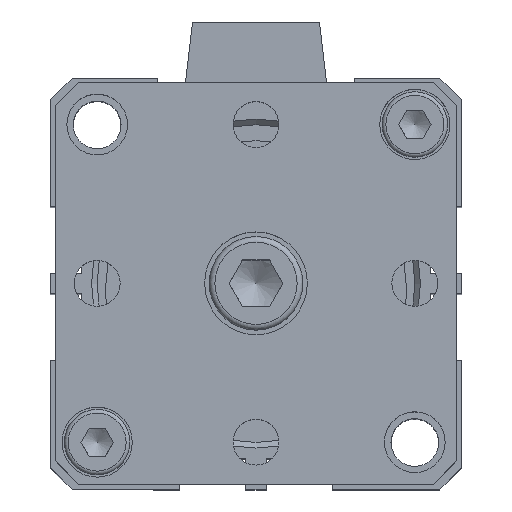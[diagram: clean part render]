
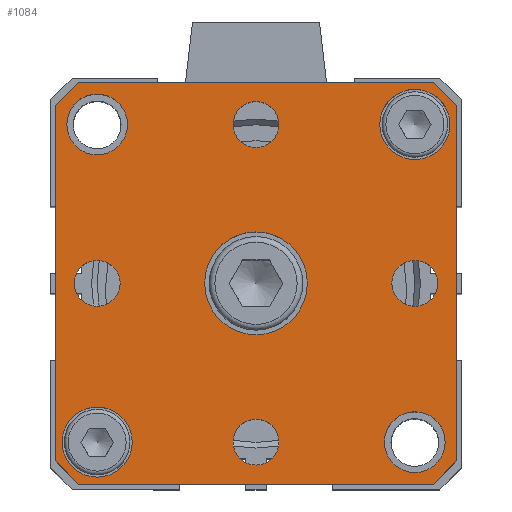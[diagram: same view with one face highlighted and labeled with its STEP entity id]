
A CAD part, top view. The second image highlights one B-rep face of the part: STEP entity #1084.
In plain terms, the highlighted planar face has unit normal (0, 0, 1).
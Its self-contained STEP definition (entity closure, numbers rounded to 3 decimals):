
#290=CARTESIAN_POINT('',(-16.976,-17.12,71.5));
#291=VERTEX_POINT('',#290);
#292=CARTESIAN_POINT('',(-20.726,-17.12,71.5));
#293=DIRECTION('',(0.0,0.0,-1.0));
#294=DIRECTION('',(1.0,0.0,0.0));
#295=AXIS2_PLACEMENT_3D('',#292,#293,#294);
#296=CIRCLE('',#295,3.75);
#297=EDGE_CURVE('',#291,#291,#296,.T.);
#392=CARTESIAN_POINT('',(17.024,16.88,71.5));
#393=VERTEX_POINT('',#392);
#394=CARTESIAN_POINT('',(13.274,16.88,71.5));
#395=DIRECTION('',(0.0,0.0,-1.0));
#396=DIRECTION('',(1.0,0.0,0.0));
#397=AXIS2_PLACEMENT_3D('',#394,#395,#396);
#398=CIRCLE('',#397,3.75);
#399=EDGE_CURVE('',#393,#393,#398,.T.);
#477=CARTESIAN_POINT('',(15.733,-0.12,71.5));
#478=VERTEX_POINT('',#477);
#479=CARTESIAN_POINT('',(13.274,-0.12,71.5));
#480=DIRECTION('',(0.0,0.0,-1.0));
#481=DIRECTION('',(1.0,0.0,0.0));
#482=AXIS2_PLACEMENT_3D('',#479,#480,#481);
#483=CIRCLE('',#482,2.459);
#484=EDGE_CURVE('',#478,#478,#483,.T.);
#526=CARTESIAN_POINT('',(-1.267,-17.12,71.5));
#527=VERTEX_POINT('',#526);
#528=CARTESIAN_POINT('',(-3.726,-17.12,71.5));
#529=DIRECTION('',(0.0,0.0,-1.0));
#530=DIRECTION('',(1.0,0.0,0.0));
#531=AXIS2_PLACEMENT_3D('',#528,#529,#530);
#532=CIRCLE('',#531,2.459);
#533=EDGE_CURVE('',#527,#527,#532,.T.);
#575=CARTESIAN_POINT('',(-18.267,-0.12,71.5));
#576=VERTEX_POINT('',#575);
#577=CARTESIAN_POINT('',(-20.726,-0.12,71.5));
#578=DIRECTION('',(0.0,0.0,-1.0));
#579=DIRECTION('',(1.0,0.0,0.0));
#580=AXIS2_PLACEMENT_3D('',#577,#578,#579);
#581=CIRCLE('',#580,2.459);
#582=EDGE_CURVE('',#576,#576,#581,.T.);
#624=CARTESIAN_POINT('',(-1.267,16.88,71.5));
#625=VERTEX_POINT('',#624);
#626=CARTESIAN_POINT('',(-3.726,16.88,71.5));
#627=DIRECTION('',(0.0,0.0,-1.0));
#628=DIRECTION('',(1.0,0.0,0.0));
#629=AXIS2_PLACEMENT_3D('',#626,#627,#628);
#630=CIRCLE('',#629,2.459);
#631=EDGE_CURVE('',#625,#625,#630,.T.);
#690=CARTESIAN_POINT('',(1.774,-0.12,71.5));
#691=VERTEX_POINT('',#690);
#692=CARTESIAN_POINT('',(-3.726,-0.12,71.5));
#693=DIRECTION('',(0.0,0.0,-1.0));
#694=DIRECTION('',(1.0,0.0,0.0));
#695=AXIS2_PLACEMENT_3D('',#692,#693,#694);
#696=CIRCLE('',#695,5.5);
#697=EDGE_CURVE('',#691,#691,#696,.T.);
#743=CARTESIAN_POINT('',(16.524,-17.12,71.5));
#744=VERTEX_POINT('',#743);
#745=CARTESIAN_POINT('',(13.274,-17.12,71.5));
#746=DIRECTION('',(0.0,0.0,-1.0));
#747=DIRECTION('',(-1.0,0.0,0.0));
#748=AXIS2_PLACEMENT_3D('',#745,#746,#747);
#749=CIRCLE('',#748,3.25);
#750=EDGE_CURVE('',#744,#744,#749,.T.);
#771=CARTESIAN_POINT('',(-17.476,16.88,71.5));
#772=VERTEX_POINT('',#771);
#773=CARTESIAN_POINT('',(-20.726,16.88,71.5));
#774=DIRECTION('',(0.0,0.0,-1.0));
#775=DIRECTION('',(-1.0,0.0,0.0));
#776=AXIS2_PLACEMENT_3D('',#773,#774,#775);
#777=CIRCLE('',#776,3.25);
#778=EDGE_CURVE('',#772,#772,#777,.T.);
#799=CARTESIAN_POINT('',(-22.726,21.38,71.5));
#800=VERTEX_POINT('',#799);
#801=CARTESIAN_POINT('',(15.274,21.38,71.5));
#802=VERTEX_POINT('',#801);
#803=CARTESIAN_POINT('',(-22.726,21.38,71.5));
#804=DIRECTION('',(1.0,0.0,0.0));
#805=VECTOR('',#804,38.);
#806=LINE('',#803,#805);
#807=EDGE_CURVE('',#800,#802,#806,.T.);
#839=CARTESIAN_POINT('',(17.774,18.88,71.5));
#840=VERTEX_POINT('',#839);
#841=CARTESIAN_POINT('',(15.274,21.38,71.5));
#842=DIRECTION('',(0.707,-0.707,0.0));
#843=VECTOR('',#842,3.536);
#844=LINE('',#841,#843);
#845=EDGE_CURVE('',#802,#840,#844,.T.);
#870=CARTESIAN_POINT('',(17.774,-19.12,71.5));
#871=VERTEX_POINT('',#870);
#872=CARTESIAN_POINT('',(17.774,18.88,71.5));
#873=DIRECTION('',(0.0,-1.0,0.0));
#874=VECTOR('',#873,38.);
#875=LINE('',#872,#874);
#876=EDGE_CURVE('',#840,#871,#875,.T.);
#901=CARTESIAN_POINT('',(15.274,-21.62,71.5));
#902=VERTEX_POINT('',#901);
#903=CARTESIAN_POINT('',(17.774,-19.12,71.5));
#904=DIRECTION('',(-0.707,-0.707,0.0));
#905=VECTOR('',#904,3.536);
#906=LINE('',#903,#905);
#907=EDGE_CURVE('',#871,#902,#906,.T.);
#932=CARTESIAN_POINT('',(-22.726,-21.62,71.5));
#933=VERTEX_POINT('',#932);
#934=CARTESIAN_POINT('',(15.274,-21.62,71.5));
#935=DIRECTION('',(-1.0,0.0,0.0));
#936=VECTOR('',#935,38.);
#937=LINE('',#934,#936);
#938=EDGE_CURVE('',#902,#933,#937,.T.);
#963=CARTESIAN_POINT('',(-25.226,-19.12,71.5));
#964=VERTEX_POINT('',#963);
#965=CARTESIAN_POINT('',(-22.726,-21.62,71.5));
#966=DIRECTION('',(-0.707,0.707,0.0));
#967=VECTOR('',#966,3.536);
#968=LINE('',#965,#967);
#969=EDGE_CURVE('',#933,#964,#968,.T.);
#994=CARTESIAN_POINT('',(-25.226,18.88,71.5));
#995=VERTEX_POINT('',#994);
#996=CARTESIAN_POINT('',(-25.226,-19.12,71.5));
#997=DIRECTION('',(0.0,1.0,0.0));
#998=VECTOR('',#997,38.);
#999=LINE('',#996,#998);
#1000=EDGE_CURVE('',#964,#995,#999,.T.);
#1025=CARTESIAN_POINT('',(-25.226,18.88,71.5));
#1026=DIRECTION('',(0.707,0.707,0.0));
#1027=VECTOR('',#1026,3.536);
#1028=LINE('',#1025,#1027);
#1029=EDGE_CURVE('',#995,#800,#1028,.T.);
#1042=CARTESIAN_POINT('',(-3.726,-0.12,71.5));
#1043=DIRECTION('',(0.0,0.0,1.0));
#1044=DIRECTION('',(1.0,0.0,0.0));
#1045=AXIS2_PLACEMENT_3D('',#1042,#1043,#1044);
#1046=PLANE('',#1045);
#1047=ORIENTED_EDGE('',*,*,#807,.F.);
#1048=ORIENTED_EDGE('',*,*,#1029,.F.);
#1049=ORIENTED_EDGE('',*,*,#1000,.F.);
#1050=ORIENTED_EDGE('',*,*,#969,.F.);
#1051=ORIENTED_EDGE('',*,*,#938,.F.);
#1052=ORIENTED_EDGE('',*,*,#907,.F.);
#1053=ORIENTED_EDGE('',*,*,#876,.F.);
#1054=ORIENTED_EDGE('',*,*,#845,.F.);
#1055=EDGE_LOOP('',(#1047,#1048,#1049,#1050,#1051,#1052,#1053,#1054));
#1056=FACE_OUTER_BOUND('',#1055,.T.);
#1057=ORIENTED_EDGE('',*,*,#297,.T.);
#1058=EDGE_LOOP('',(#1057));
#1059=FACE_BOUND('',#1058,.T.);
#1060=ORIENTED_EDGE('',*,*,#399,.T.);
#1061=EDGE_LOOP('',(#1060));
#1062=FACE_BOUND('',#1061,.T.);
#1063=ORIENTED_EDGE('',*,*,#484,.T.);
#1064=EDGE_LOOP('',(#1063));
#1065=FACE_BOUND('',#1064,.T.);
#1066=ORIENTED_EDGE('',*,*,#533,.T.);
#1067=EDGE_LOOP('',(#1066));
#1068=FACE_BOUND('',#1067,.T.);
#1069=ORIENTED_EDGE('',*,*,#582,.T.);
#1070=EDGE_LOOP('',(#1069));
#1071=FACE_BOUND('',#1070,.T.);
#1072=ORIENTED_EDGE('',*,*,#631,.T.);
#1073=EDGE_LOOP('',(#1072));
#1074=FACE_BOUND('',#1073,.T.);
#1075=ORIENTED_EDGE('',*,*,#697,.T.);
#1076=EDGE_LOOP('',(#1075));
#1077=FACE_BOUND('',#1076,.T.);
#1078=ORIENTED_EDGE('',*,*,#750,.T.);
#1079=EDGE_LOOP('',(#1078));
#1080=FACE_BOUND('',#1079,.T.);
#1081=ORIENTED_EDGE('',*,*,#778,.T.);
#1082=EDGE_LOOP('',(#1081));
#1083=FACE_BOUND('',#1082,.T.);
#1084=ADVANCED_FACE('',(#1056,#1059,#1062,#1065,#1068,#1071,#1074,#1077,#1080,#1083),#1046,.T.);
